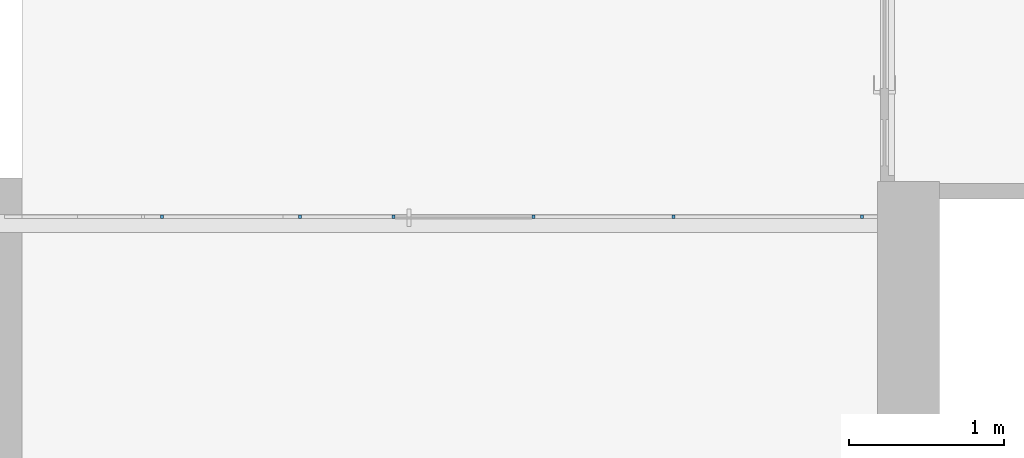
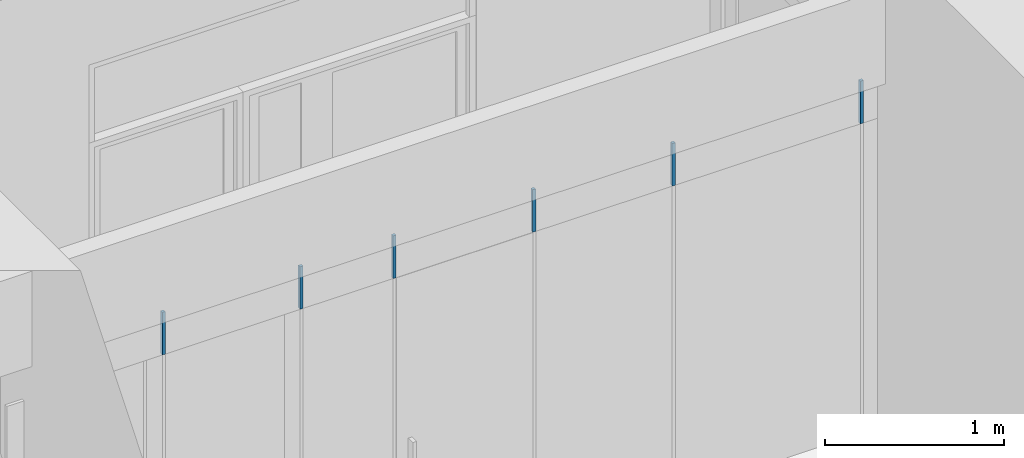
# One storey, part 6 of 66: 6 members, 1 element without a shape of its own.
"""IFC2X3 building model written with IfcOpenShell, lengths in millimetres."""

from ifc_helpers import new_model, entity, si_unit, converted_unit, derived_unit, direction, frame, origin, origin_2d_with_axis, place, context, subcontext, project, spatial, rectangle, extrude, source, transform, mapped, material, type_object, type_shapes, element, aggregate, save


model = new_model("IFC2X3")

# Units and contexts
model_context = context("Model", 3, precision=0.01, world=origin(), true_north=direction((6.12303176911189e-17, 1.0)))
body_context = subcontext(model_context, "Body", "Model", "MODEL_VIEW")
ifc_project = project(units=[si_unit("LENGTHUNIT", "METRE", prefix="MILLI"), si_unit("AREAUNIT", "SQUARE_METRE"), si_unit("VOLUMEUNIT", "CUBIC_METRE"), converted_unit("PLANEANGLEUNIT", "DEGREE", entity("IfcRatioMeasure", 0.0174532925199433), si_unit("PLANEANGLEUNIT", "RADIAN"), dimensions=[0, 0, 0, 0, 0, 0, 0]), si_unit("MASSUNIT", "GRAM", prefix="KILO"), derived_unit("MASSDENSITYUNIT", [(si_unit("MASSUNIT", "GRAM", prefix="KILO"), 1), (si_unit("LENGTHUNIT", "METRE"), -3)]), si_unit("TIMEUNIT", "SECOND"), si_unit("FREQUENCYUNIT", "HERTZ"), si_unit("THERMODYNAMICTEMPERATUREUNIT", "DEGREE_CELSIUS"), derived_unit("THERMALTRANSMITTANCEUNIT", [(si_unit("MASSUNIT", "GRAM", prefix="KILO"), 1), (si_unit("THERMODYNAMICTEMPERATUREUNIT", "KELVIN"), -1), (si_unit("TIMEUNIT", "SECOND"), -3)]), derived_unit("VOLUMETRICFLOWRATEUNIT", [(si_unit("LENGTHUNIT", "METRE"), 3), (si_unit("TIMEUNIT", "SECOND"), -1)]), si_unit("ELECTRICCURRENTUNIT", "AMPERE"), si_unit("ELECTRICVOLTAGEUNIT", "VOLT"), si_unit("POWERUNIT", "WATT"), si_unit("FORCEUNIT", "NEWTON", prefix="KILO"), si_unit("ILLUMINANCEUNIT", "LUX"), si_unit("LUMINOUSFLUXUNIT", "LUMEN"), si_unit("LUMINOUSINTENSITYUNIT", "CANDELA"), derived_unit("USERDEFINED", [(si_unit("MASSUNIT", "GRAM", prefix="KILO"), -1), (si_unit("LENGTHUNIT", "METRE"), -2), (si_unit("TIMEUNIT", "SECOND"), 3), (si_unit("LUMINOUSFLUXUNIT", "LUMEN"), 1)]), derived_unit("LINEARVELOCITYUNIT", [(si_unit("LENGTHUNIT", "METRE"), 1), (si_unit("TIMEUNIT", "SECOND"), -1)]), si_unit("PRESSUREUNIT", "PASCAL"), derived_unit("USERDEFINED", [(si_unit("LENGTHUNIT", "METRE"), -2), (si_unit("MASSUNIT", "GRAM", prefix="KILO"), 1), (si_unit("TIMEUNIT", "SECOND"), -2)])], contexts=[model_context])

# Site, building, storey
site_placement = place(None, frame((-151.875543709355, 2715.0, 0.0)))
site = spatial("IfcSite", under=ifc_project, at=site_placement, Name="Surface", CompositionType="ELEMENT")
building_placement = place(site_placement, origin())
building = spatial("IfcBuilding", under=site, at=building_placement, CompositionType="ELEMENT")
storey_placement = place(building_placement, frame((0.0, 0.0, 3350.0)))
storey = spatial("IfcBuildingStorey", under=building, at=storey_placement, Name="2 korrus", CompositionType="ELEMENT", Elevation=3350.00000000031)

# Curtain wall, members
curtain_wall_type = type_object("IfcCurtainWallType", Name="Curtain Wall:Klaassein KLS-07", PredefinedType="NOTDEFINED")
curtain_wall_placement = place(storey_placement, frame((0.0, 0.0, -3350.0)))
curtain_wall = element("IfcCurtainWall", 1, at=curtain_wall_placement, inside=storey, type_object=curtain_wall_type, Name="Curtain Wall:Klaassein KLS-07", ObjectType="Curtain Wall:Klaassein KLS-07")
ifc_material = material(Name="__Uks_hele tamm")
member_type = type_object("IfcMemberType", Name="20 x 20mm", PredefinedType="MEMBER")
shared_shape = source(origin(), body_context, "Body", "SweptSolid", [
    extrude(rectangle(XDim=20.0, YDim=20.0, at=origin_2d_with_axis()), frame((0.0, 0.0, -290.0), z_axis=(0.0, 0.0, 1.0), x_axis=(0.0, -1.0, 0.0)), (0.0, 0.0, 1.0), 290.0),
])
type_shapes(member_type, [shared_shape])
member_1_placement = place(storey_placement, frame((1362.4935297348, 4150.48849455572, 2110.0), z_axis=(0.0, 0.0, -1.0), x_axis=(1.0, 0.0, 0.0)))
member_1 = element("IfcMember", 2, at=member_1_placement, type_object=member_type, material=ifc_material, Name="Rectangular Mullion:20 x 20mm", ObjectType="20 x 20mm", context=body_context, shape_type="MappedRepresentation", body=[
    mapped(shared_shape, transform((0.0, 0.0, 0.0), scale=1.0)),
])
member_2_placement = place(storey_placement, frame((2249.87554580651, 4150.48849455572, 2110.0), z_axis=(0.0, 0.0, -1.0), x_axis=(1.0, 0.0, 0.0)))
member_2 = element("IfcMember", 3, at=member_2_placement, type_object=member_type, material=ifc_material, Name="Rectangular Mullion:20 x 20mm", ObjectType="20 x 20mm", context=body_context, shape_type="MappedRepresentation", body=[
    mapped(shared_shape, transform((0.0, 0.0, 0.0), scale=1.0)),
])
member_3_placement = place(storey_placement, frame((2849.87554580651, 4150.48849455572, 2110.0), z_axis=(0.0, 0.0, -1.0), x_axis=(1.0, 0.0, 0.0)))
member_3 = element("IfcMember", 4, at=member_3_placement, type_object=member_type, material=ifc_material, Name="Rectangular Mullion:20 x 20mm", ObjectType="20 x 20mm", context=body_context, shape_type="MappedRepresentation", body=[
    mapped(shared_shape, transform((0.0, 0.0, 0.0), scale=1.0)),
])
member_4_placement = place(storey_placement, frame((3749.87554580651, 4150.48849455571, 2110.0), z_axis=(0.0, 0.0, -1.0), x_axis=(1.0, 0.0, 0.0)))
member_4 = element("IfcMember", 5, at=member_4_placement, type_object=member_type, material=ifc_material, Name="Rectangular Mullion:20 x 20mm", ObjectType="20 x 20mm", context=body_context, shape_type="MappedRepresentation", body=[
    mapped(shared_shape, transform((0.0, 0.0, 0.0), scale=1.0)),
])
member_5_placement = place(storey_placement, frame((4649.87554580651, 4150.48849455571, 2110.0), z_axis=(0.0, 0.0, -1.0), x_axis=(1.0, 0.0, 0.0)))
member_5 = element("IfcMember", 6, at=member_5_placement, type_object=member_type, material=ifc_material, Name="Rectangular Mullion:20 x 20mm", ObjectType="20 x 20mm", context=body_context, shape_type="MappedRepresentation", body=[
    mapped(shared_shape, transform((0.0, 0.0, 0.0), scale=1.0)),
])
member_6_placement = place(storey_placement, frame((5862.4935297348, 4150.48849455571, 2110.0), z_axis=(0.0, 0.0, -1.0), x_axis=(1.0, 0.0, 0.0)))
member_6 = element("IfcMember", 7, at=member_6_placement, type_object=member_type, material=ifc_material, Name="Rectangular Mullion:20 x 20mm", ObjectType="20 x 20mm", context=body_context, shape_type="MappedRepresentation", body=[
    mapped(shared_shape, transform((0.0, 0.0, 0.0), scale=1.0)),
])
aggregate(curtain_wall, [member_1, member_2, member_3, member_4, member_5, member_6])

save(model, "model.ifc")
